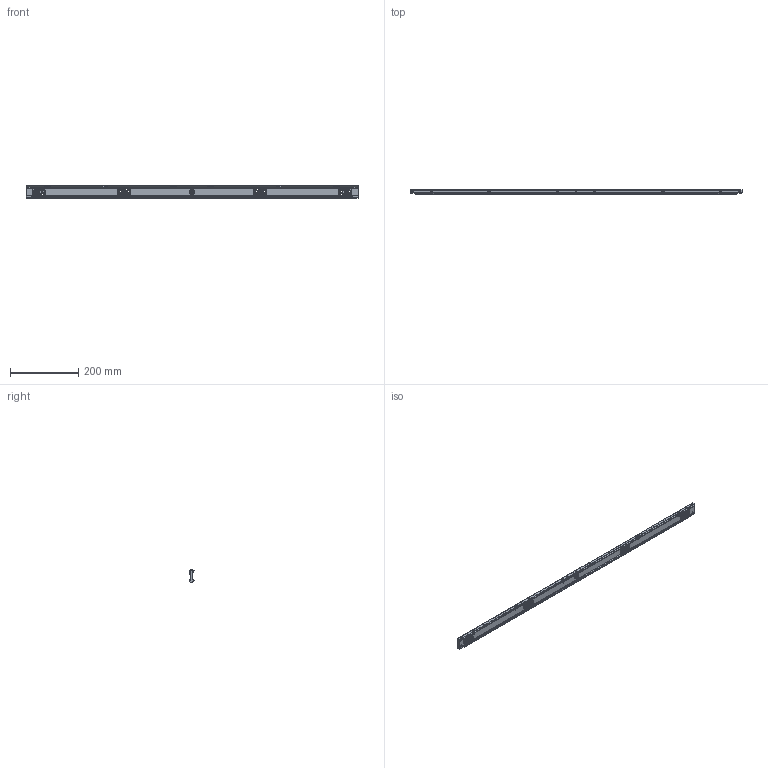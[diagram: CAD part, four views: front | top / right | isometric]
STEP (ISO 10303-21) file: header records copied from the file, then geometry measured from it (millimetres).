
FILE_DESCRIPTION(('Creo Elements/Direct Modeling STEP Export'),'2;1');
FILE_NAME('B3-870.stp','2020-10-30T13:19:59',(''),(''),'Creo Elements/Direct Modeling STEP processor for AP214 (Solid Model)','Creo Elements/Direct Modeling 19.0G 27-Nov-2017 (C) Parametric Technology GmbH','');
FILE_SCHEMA(('AUTOMOTIVE_DESIGN { 1 0 10303 214 1 1 1 1 }'));
Length unit declared in the file: millimetre
Products named in the file (2): PERFIL_SOPORTE_MECANIZADO_REGLA_SV3-870
Assembly tree (1 placements, depth 2):
  PERFIL_SOPORTE_MECANIZADO_REGLA_SV3-870
    PERFIL_SOPORTE_MECANIZADO_REGLA_SV3-870
Bounding box: 975 x 12.13 x 36.1 mm (x, y, z)
Volume: 235937.2 mm3; surface area: 122145 mm2
Topology: 1 solids, 1 shells, 1248 faces, 3674 edges, 2426 vertices
Faces by surface type: plane 686, cylinder 426, cone 88, torus 24, bspline 24
Entity records: 46397 total; most frequent: CARTESIAN_POINT 10202, ORIENTED_EDGE 7324, DIRECTION 6164, EDGE_CURVE 3662, VERTEX_POINT 2426, VECTOR 2080, LINE 2080, AXIS2_PLACEMENT_3D 2042
